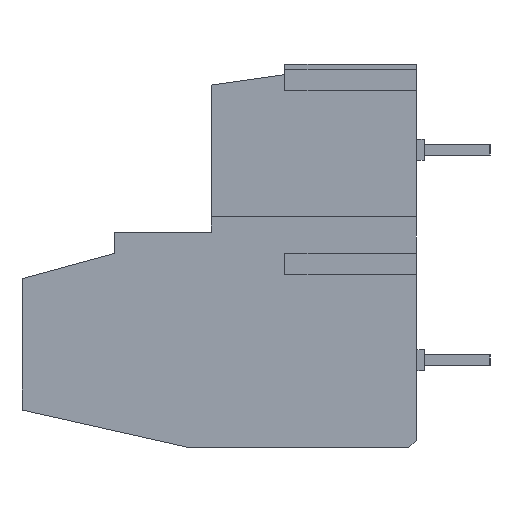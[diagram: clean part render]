
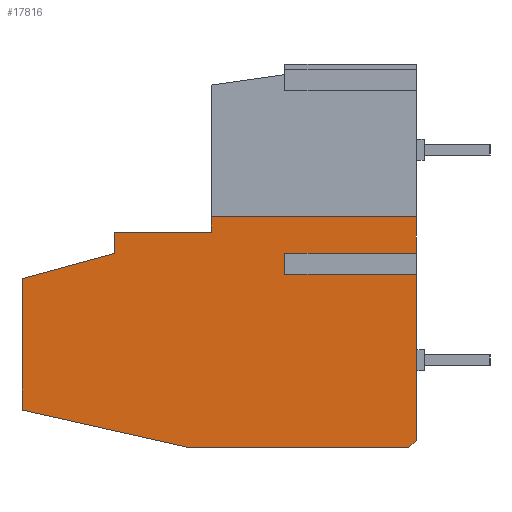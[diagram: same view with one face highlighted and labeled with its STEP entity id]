
A CAD part, left-side view. The second image highlights one B-rep face of the part: STEP entity #17816.
In plain terms, the highlighted planar face has unit normal (-1, 0, 0).
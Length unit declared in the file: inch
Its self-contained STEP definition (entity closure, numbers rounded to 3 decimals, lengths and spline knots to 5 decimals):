
#1=DIRECTION('',(0.,1.,0.));
#2=VECTOR('',#1,0.25);
#3=CARTESIAN_POINT('',(-1.8,0.,0.37));
#4=LINE('',#3,#2);
#5=DIRECTION('',(0.,0.,-1.));
#6=VECTOR('',#5,0.04);
#7=CARTESIAN_POINT('',(-1.8,0.25,0.37));
#8=LINE('',#7,#6);
#9=DIRECTION('',(0.,1.,0.));
#10=VECTOR('',#9,0.25);
#11=CARTESIAN_POINT('',(-1.8,0.,0.33));
#12=LINE('',#11,#10);
#13=DIRECTION('',(0.,-0.707,0.707));
#14=VECTOR('',#13,0.02121);
#15=CARTESIAN_POINT('',(-1.8,0.015,0.));
#16=LINE('',#15,#14);
#17=DIRECTION('',(0.,1.,0.));
#18=VECTOR('',#17,0.415);
#19=CARTESIAN_POINT('',(-1.8,0.015,0.));
#20=LINE('',#19,#18);
#21=DIRECTION('',(0.,0.976,0.22));
#22=VECTOR('',#21,0.328);
#23=CARTESIAN_POINT('',(-1.8,0.43,0.));
#24=LINE('',#23,#22);
#25=DIRECTION('',(0.,0.,1.));
#26=VECTOR('',#25,0.25);
#27=CARTESIAN_POINT('',(-1.8,0.75,0.072));
#28=LINE('',#27,#26);
#29=DIRECTION('',(0.,-0.964,0.265));
#30=VECTOR('',#29,0.18146);
#31=CARTESIAN_POINT('',(-1.8,0.75,0.322));
#32=LINE('',#31,#30);
#33=DIRECTION('',(0.,0.,1.));
#34=VECTOR('',#33,0.04);
#35=CARTESIAN_POINT('',(-1.8,0.575,0.37));
#36=LINE('',#35,#34);
#37=DIRECTION('',(0.,-1.,0.));
#38=VECTOR('',#37,0.185);
#39=CARTESIAN_POINT('',(-1.8,0.575,0.41));
#40=LINE('',#39,#38);
#41=DIRECTION('',(0.,0.,-1.));
#42=VECTOR('',#41,0.03);
#43=CARTESIAN_POINT('',(-1.8,0.39,0.44));
#44=LINE('',#43,#42);
#45=DIRECTION('',(0.,1.,0.));
#46=VECTOR('',#45,0.39);
#47=CARTESIAN_POINT('',(-1.8,0.,0.44));
#48=LINE('',#47,#46);
#373=DIRECTION('',(0.,0.,1.));
#374=VECTOR('',#373,0.315);
#375=CARTESIAN_POINT('',(-1.8,0.,0.015));
#376=LINE('',#375,#374);
#381=DIRECTION('',(0.,0.,1.));
#382=VECTOR('',#381,0.07);
#383=CARTESIAN_POINT('',(-1.8,0.,0.37));
#384=LINE('',#383,#382);
#13733=CARTESIAN_POINT('',(-1.8,0.43,0.));
#13734=CARTESIAN_POINT('',(-1.8,0.75,0.072));
#13735=VERTEX_POINT('',#13733);
#13736=VERTEX_POINT('',#13734);
#13737=CARTESIAN_POINT('',(-1.8,0.75,0.322));
#13738=VERTEX_POINT('',#13737);
#13745=CARTESIAN_POINT('',(-1.8,0.575,0.37));
#13746=VERTEX_POINT('',#13745);
#13747=CARTESIAN_POINT('',(-1.8,0.575,0.41));
#13748=VERTEX_POINT('',#13747);
#14151=CARTESIAN_POINT('',(-1.8,0.015,0.));
#14152=CARTESIAN_POINT('',(-1.8,0.,0.015));
#14153=VERTEX_POINT('',#14151);
#14154=VERTEX_POINT('',#14152);
#14241=CARTESIAN_POINT('',(-1.8,0.,0.37));
#14242=CARTESIAN_POINT('',(-1.8,0.25,0.37));
#14243=VERTEX_POINT('',#14241);
#14244=VERTEX_POINT('',#14242);
#14245=CARTESIAN_POINT('',(-1.8,0.25,0.33));
#14246=VERTEX_POINT('',#14245);
#14247=CARTESIAN_POINT('',(-1.8,0.,0.33));
#14248=VERTEX_POINT('',#14247);
#14269=CARTESIAN_POINT('',(-1.8,0.39,0.41));
#14271=VERTEX_POINT('',#14269);
#14313=CARTESIAN_POINT('',(-1.8,0.,0.44));
#14314=CARTESIAN_POINT('',(-1.8,0.39,0.44));
#14315=VERTEX_POINT('',#14313);
#14316=VERTEX_POINT('',#14314);
#17781=CARTESIAN_POINT('',(-1.8,0.,0.));
#17782=DIRECTION('',(1.,0.,0.));
#17783=DIRECTION('',(0.,0.,-1.));
#17784=AXIS2_PLACEMENT_3D('',#17781,#17782,#17783);
#17785=PLANE('',#17784);
#17787=ORIENTED_EDGE('',*,*,#17786,.T.);
#17789=ORIENTED_EDGE('',*,*,#17788,.T.);
#17791=ORIENTED_EDGE('',*,*,#17790,.F.);
#17793=ORIENTED_EDGE('',*,*,#17792,.F.);
#17795=ORIENTED_EDGE('',*,*,#17794,.F.);
#17797=ORIENTED_EDGE('',*,*,#17796,.T.);
#17799=ORIENTED_EDGE('',*,*,#17798,.T.);
#17801=ORIENTED_EDGE('',*,*,#17800,.T.);
#17803=ORIENTED_EDGE('',*,*,#17802,.T.);
#17805=ORIENTED_EDGE('',*,*,#17804,.T.);
#17807=ORIENTED_EDGE('',*,*,#17806,.T.);
#17809=ORIENTED_EDGE('',*,*,#17808,.F.);
#17811=ORIENTED_EDGE('',*,*,#17810,.F.);
#17813=ORIENTED_EDGE('',*,*,#17812,.F.);
#17814=EDGE_LOOP('',(#17787,#17789,#17791,#17793,#17795,#17797,#17799,#17801,
#17803,#17805,#17807,#17809,#17811,#17813));
#17815=FACE_OUTER_BOUND('',#17814,.F.);
#17816=ADVANCED_FACE('',(#17815),#17785,.F.);
#17786=EDGE_CURVE('',#14243,#14244,#4,.T.);
#17788=EDGE_CURVE('',#14244,#14246,#8,.T.);
#17790=EDGE_CURVE('',#14248,#14246,#12,.T.);
#17792=EDGE_CURVE('',#14154,#14248,#376,.T.);
#17794=EDGE_CURVE('',#14153,#14154,#16,.T.);
#17796=EDGE_CURVE('',#14153,#13735,#20,.T.);
#17798=EDGE_CURVE('',#13735,#13736,#24,.T.);
#17800=EDGE_CURVE('',#13736,#13738,#28,.T.);
#17802=EDGE_CURVE('',#13738,#13746,#32,.T.);
#17804=EDGE_CURVE('',#13746,#13748,#36,.T.);
#17806=EDGE_CURVE('',#13748,#14271,#40,.T.);
#17808=EDGE_CURVE('',#14316,#14271,#44,.T.);
#17810=EDGE_CURVE('',#14315,#14316,#48,.T.);
#17812=EDGE_CURVE('',#14243,#14315,#384,.T.);
